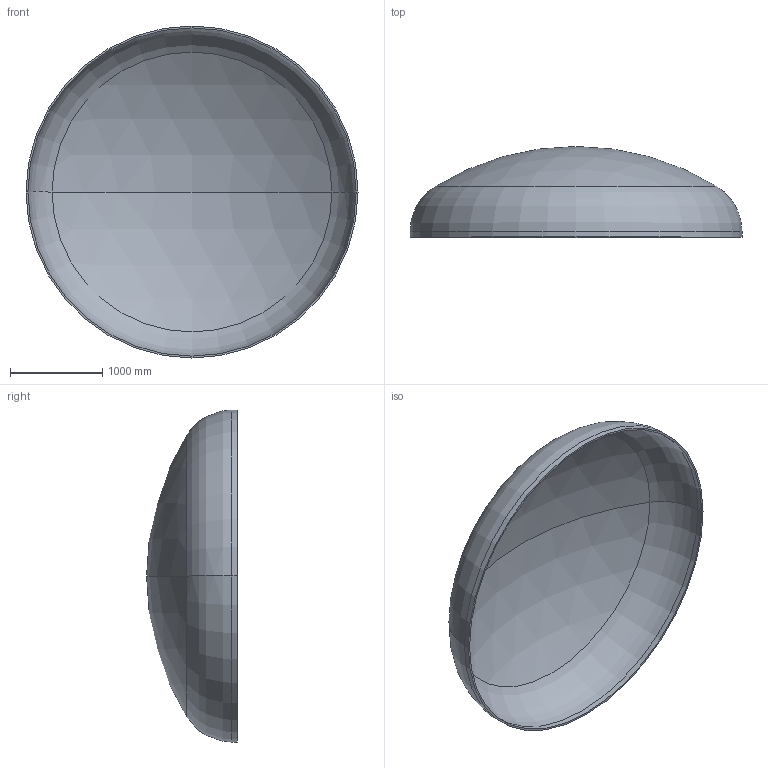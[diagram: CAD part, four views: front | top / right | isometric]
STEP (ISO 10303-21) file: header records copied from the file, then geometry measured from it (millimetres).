
FILE_DESCRIPTION (( 'STEP AP203' ), '1' );
FILE_NAME ('DIN 28013 Korbbogenform_-_Boden DIN 28013 - 3600 x 60 - I - s=20.step', '2016-07-01T20:11:10', ( '' ), ( '' ), 'SwSTEP 2.0', 'SolidWorks 2013', '' );
FILE_SCHEMA (( 'CONFIG_CONTROL_DESIGN' ));
Length unit declared in the file: millimetre
Products named in the file (1): DIN 28013 Korbbogenform_-_Boden DIN 28013 - 3600 x 60 - I - s=20
Bounding box: 3600 x 983.89 x 3600 mm (x, y, z)
Volume: 293448584.5 mm3; surface area: 29570622.7 mm2
Topology: 1 solids, 1 shells, 13 faces, 24 edges, 14 vertices
Faces by surface type: torus 4, cylinder 4, sphere 4, plane 1
Entity records: 407 total; most frequent: DIRECTION 72, CARTESIAN_POINT 52, ORIENTED_EDGE 48, AXIS2_PLACEMENT_3D 34, EDGE_CURVE 24, CIRCLE 20, VERTEX_POINT 14, EDGE_LOOP 14
